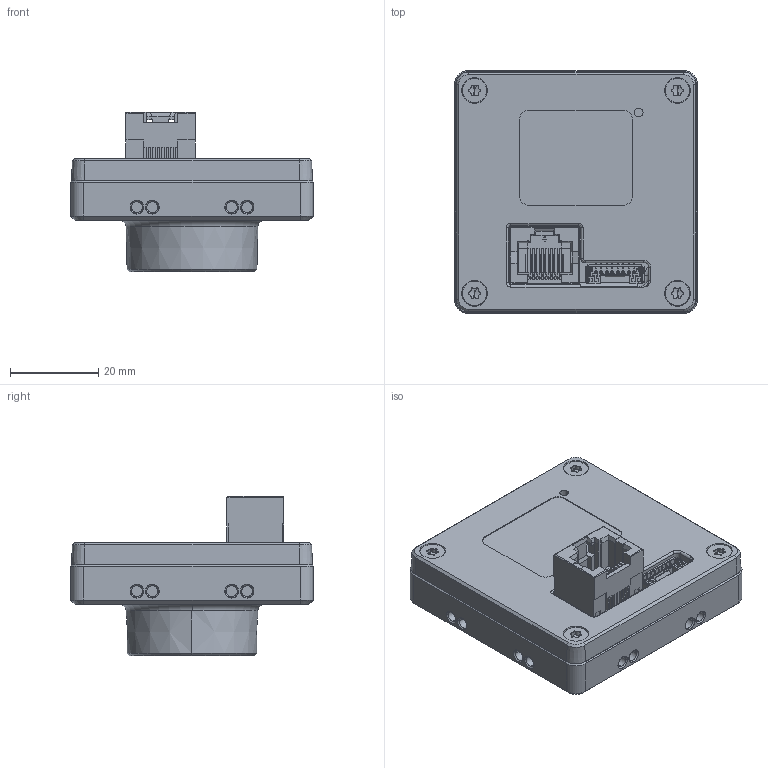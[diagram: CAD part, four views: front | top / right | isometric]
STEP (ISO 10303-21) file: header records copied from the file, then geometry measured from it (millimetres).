
FILE_DESCRIPTION((''),'2;1');
FILE_NAME('DH3-1926-6013_1_1','2024-02-01T11:27:29',('401332'),(''),'CREO PARAMETRIC BY PTC INC, 2020184','CREO PARAMETRIC BY PTC INC, 2020184','');
FILE_SCHEMA(('CONFIG_CONTROL_DESIGN','SHAPE_APPEARANCE_LAYERS_GROUPS'));
Products named in the file (1): DH3-1926-6013_1_1
Bounding box: 55 x 55 x 36.1 mm (x, y, z)
Volume: 22481.2 mm3; surface area: 24851.5 mm2
Topology: 3 solids, 31 shells, 2054 faces, 5848 edges, 3858 vertices
Faces by surface type: plane 1346, cylinder 472, cone 161, torus 49, bspline 26
Entity records: 89833 total; most frequent: CARTESIAN_POINT 17275, ORIENTED_EDGE 11568, DIRECTION 10899, PRESENTATION_STYLE_ASSIGNMENT 5969, STYLED_ITEM 5871, CURVE_STYLE 5840, EDGE_CURVE 5840, VECTOR 4079
